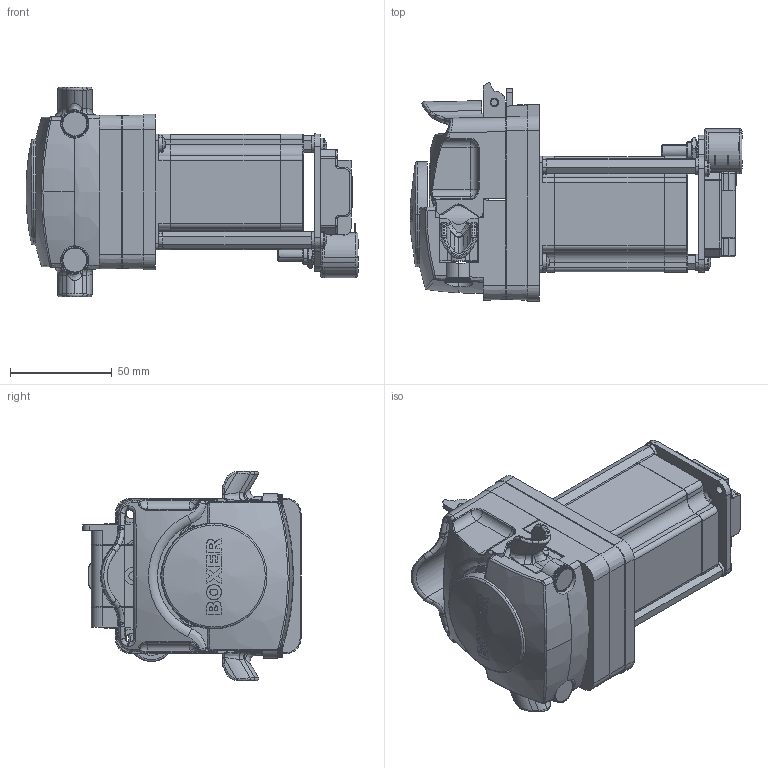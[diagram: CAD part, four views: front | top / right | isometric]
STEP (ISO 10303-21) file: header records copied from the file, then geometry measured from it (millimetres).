
FILE_DESCRIPTION (( 'STEP AP203' ), '1' );
FILE_NAME ('25K+driver+pot.STEP', '2016-10-13T17:51:46', ( '' ), ( '' ), 'SwSTEP 2.0', 'SolidWorks 2014', '' );
FILE_SCHEMA (( 'CONFIG_CONTROL_DESIGN' ));
Length unit declared in the file: millimetre
Products named in the file (1): 25K+driver+pot
Bounding box: 163.35 x 107.28 x 103 mm (x, y, z)
Surface area: 105915.5 mm2 (no closed solid volume)
Topology: 0 solids, 54 shells, 1262 faces, 4772 edges, 3516 vertices
Faces by surface type: plane 456, cylinder 322, bspline 208, cone 139, torus 96, sphere 41
Entity records: 58821 total; most frequent: CARTESIAN_POINT 21294, ORIENTED_EDGE 7390, DIRECTION 7347, EDGE_CURVE 4767, VERTEX_POINT 3516, AXIS2_PLACEMENT_3D 2694, LINE 1959, VECTOR 1959
